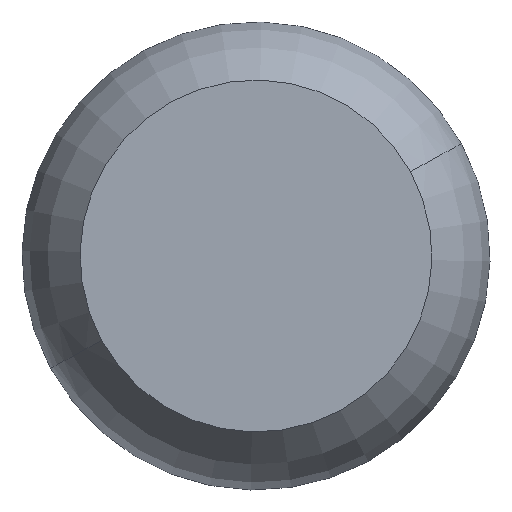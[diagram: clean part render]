
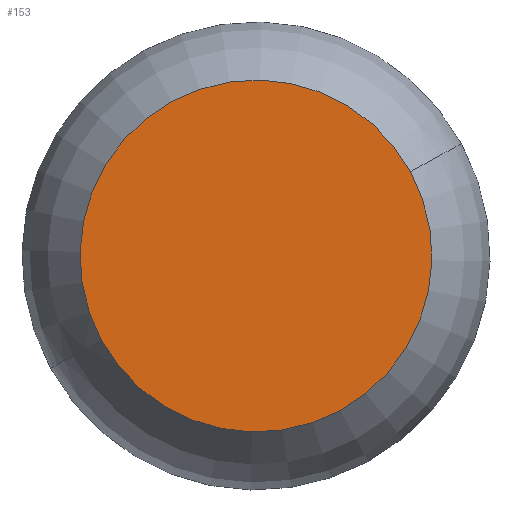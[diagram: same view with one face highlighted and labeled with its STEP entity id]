
A CAD part, front view. The second image highlights one B-rep face of the part: STEP entity #153.
In plain terms, the highlighted planar face has unit normal (0, -1, 0).
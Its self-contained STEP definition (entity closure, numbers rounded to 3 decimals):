
#66=CARTESIAN_POINT('Axis2P3D Location',(0.,0.,0.)) ;
#70=CARTESIAN_POINT('Vertex',(84.248,0.,46.025)) ;
#72=CARTESIAN_POINT('Vertex',(-84.248,0.,-46.025)) ;
#127=CARTESIAN_POINT('Axis2P3D Location',(0.,0.,0.)) ;
#144=CARTESIAN_POINT('Axis2P3D Location',(0.,0.,0.)) ;
#67=DIRECTION('Axis2P3D Direction',(0.,-1.,0.)) ;
#128=DIRECTION('Axis2P3D Direction',(0.,-1.,0.)) ;
#145=DIRECTION('Axis2P3D Direction',(0.,-1.,0.)) ;
#146=DIRECTION('Axis2P3D XDirection',(1.,0.,0.)) ;
#68=AXIS2_PLACEMENT_3D('Circle Axis2P3D',#66,#67,$) ;
#129=AXIS2_PLACEMENT_3D('Circle Axis2P3D',#127,#128,$) ;
#147=AXIS2_PLACEMENT_3D('Plane Axis2P3D',#144,#145,#146) ;
#150=ORIENTED_EDGE('',*,*,#74,.T.) ;
#151=ORIENTED_EDGE('',*,*,#131,.T.) ;
#153=ADVANCED_FACE('PartBody',(#152),#148,.T.) ;
#69=CIRCLE('generated circle',#68,96.) ;
#130=CIRCLE('generated circle',#129,96.) ;
#74=EDGE_CURVE('',#71,#73,#69,.T.) ;
#131=EDGE_CURVE('',#73,#71,#130,.T.) ;
#149=EDGE_LOOP('',(#150,#151)) ;
#152=FACE_OUTER_BOUND('',#149,.T.) ;
#148=PLANE('',#147) ;
#71=VERTEX_POINT('',#70) ;
#73=VERTEX_POINT('',#72) ;
